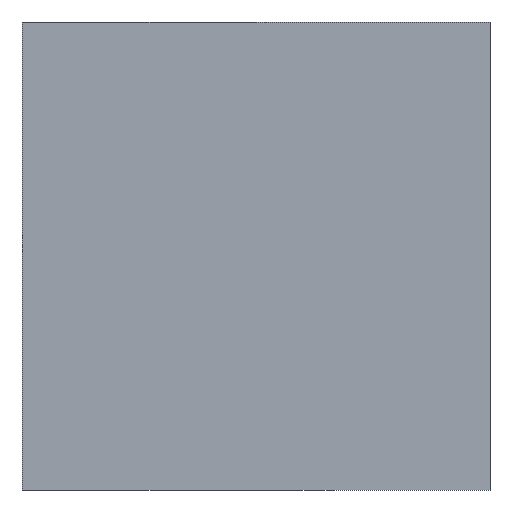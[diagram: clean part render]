
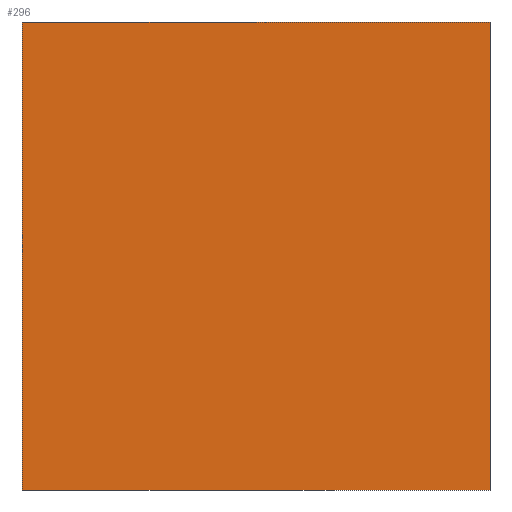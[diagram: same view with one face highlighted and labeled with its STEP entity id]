
A CAD part, left-side view. The second image highlights one B-rep face of the part: STEP entity #296.
In plain terms, the highlighted planar face has unit normal (-1, 0, 0).
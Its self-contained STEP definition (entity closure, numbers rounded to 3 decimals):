
#25=LINE('',#461,#49);
#32=LINE('',#477,#56);
#34=LINE('',#481,#58);
#35=LINE('',#482,#59);
#49=VECTOR('',#372,1000.);
#56=VECTOR('',#385,1000.);
#58=VECTOR('',#389,1000.);
#59=VECTOR('',#390,1000.);
#71=PLANE('',#332);
#105=ORIENTED_EDGE('',*,*,#175,.T.);
#106=ORIENTED_EDGE('',*,*,#165,.F.);
#107=ORIENTED_EDGE('',*,*,#176,.F.);
#108=ORIENTED_EDGE('',*,*,#173,.T.);
#165=EDGE_CURVE('',#201,#202,#25,.T.);
#173=EDGE_CURVE('',#208,#207,#32,.T.);
#175=EDGE_CURVE('',#207,#202,#34,.T.);
#176=EDGE_CURVE('',#208,#201,#35,.T.);
#201=VERTEX_POINT('',#460);
#202=VERTEX_POINT('',#462);
#207=VERTEX_POINT('',#476);
#208=VERTEX_POINT('',#478);
#233=EDGE_LOOP('',(#105,#106,#107,#108));
#263=FACE_BOUND('',#233,.T.);
#296=ADVANCED_FACE('',(#263),#71,.F.);
#332=AXIS2_PLACEMENT_3D('',#480,#387,#388);
#372=DIRECTION('',(0.,-1.,0.));
#385=DIRECTION('',(0.,-1.,0.));
#387=DIRECTION('',(1.,0.,0.));
#388=DIRECTION('',(0.,0.,-1.));
#389=DIRECTION('',(0.,0.,1.));
#390=DIRECTION('',(0.,0.,1.));
#460=CARTESIAN_POINT('',(-7.5,30.,30.));
#461=CARTESIAN_POINT('',(-7.5,30.,30.));
#462=CARTESIAN_POINT('',(-7.5,0.,30.));
#476=CARTESIAN_POINT('',(-7.5,0.,0.));
#477=CARTESIAN_POINT('',(-7.5,30.,0.));
#478=CARTESIAN_POINT('',(-7.5,30.,0.));
#480=CARTESIAN_POINT('',(-7.5,30.,0.));
#481=CARTESIAN_POINT('',(-7.5,0.,0.));
#482=CARTESIAN_POINT('',(-7.5,30.,0.));
